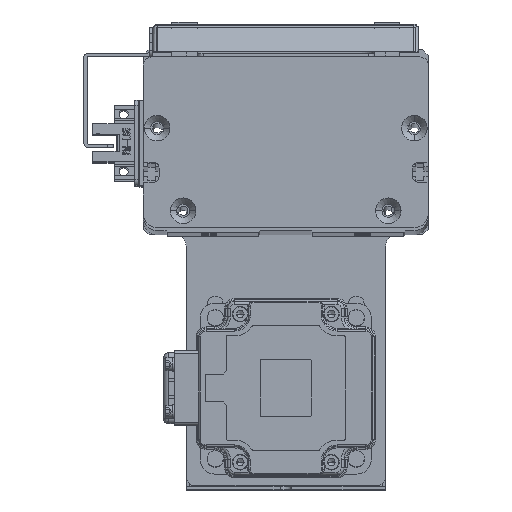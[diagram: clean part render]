
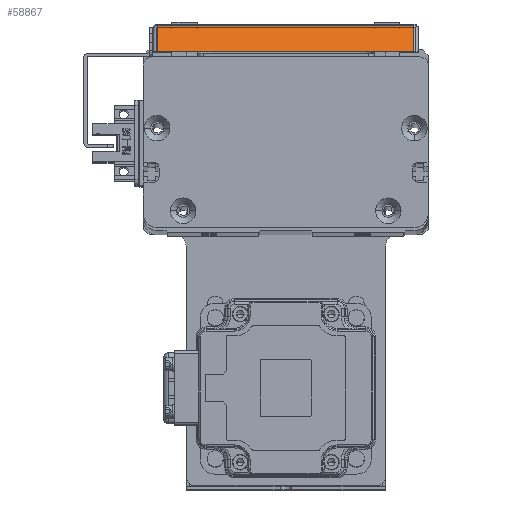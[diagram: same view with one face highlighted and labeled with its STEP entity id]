
A CAD part, top view. The second image highlights one B-rep face of the part: STEP entity #58867.
In plain terms, the highlighted planar face has unit normal (0, 0.707, 0.707) as drawn and (-0.707, 0, -0.707) by its records, which use the part's own axes.
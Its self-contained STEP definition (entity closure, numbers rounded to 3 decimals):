
#738 = FACE_OUTER_BOUND ( 'NONE', #35264, .T. ) ;
#4254 = ORIENTED_EDGE ( 'NONE', *, *, #16990, .T. ) ;
#6164 = VECTOR ( 'NONE', #11772, 1000. ) ;
#7328 = VERTEX_POINT ( 'NONE', #44306 ) ;
#8373 = EDGE_CURVE ( 'NONE', #7328, #28457, #16196, .T. ) ;
#10693 = CARTESIAN_POINT ( 'NONE',  ( -66.5, 91.7, 4.1 ) ) ;
#11015 = DIRECTION ( 'NONE',  ( -0.707, 0., 0.707 ) ) ;
#11119 = CARTESIAN_POINT ( 'NONE',  ( -66.5, 1.7, 4.1 ) ) ;
#11772 = DIRECTION ( 'NONE',  ( -0.707, 0., 0.707 ) ) ;
#12618 = EDGE_CURVE ( 'NONE', #38920, #7328, #15069, .T. ) ;
#12957 = LINE ( 'NONE', #43686, #6164 ) ;
#14979 = DIRECTION ( 'NONE',  ( 0., 1., 0. ) ) ;
#15069 = LINE ( 'NONE', #64853, #44924 ) ;
#15192 = ORIENTED_EDGE ( 'NONE', *, *, #12618, .T. ) ;
#16196 = LINE ( 'NONE', #22577, #37491 ) ;
#16990 = EDGE_CURVE ( 'NONE', #28457, #44024, #12957, .T. ) ;
#20171 = ORIENTED_EDGE ( 'NONE', *, *, #57896, .T. ) ;
#22577 = CARTESIAN_POINT ( 'NONE',  ( -57.298, 93.4, -5.102 ) ) ;
#28075 = LINE ( 'NONE', #30191, #45090 ) ;
#28457 = VERTEX_POINT ( 'NONE', #29002 ) ;
#29002 = CARTESIAN_POINT ( 'NONE',  ( -57.298, 1.7, -5.102 ) ) ;
#30191 = CARTESIAN_POINT ( 'NONE',  ( -66.5, 93.4, 4.1 ) ) ;
#33828 = DIRECTION ( 'NONE',  ( -0.707, 0., -0.707 ) ) ;
#35264 = EDGE_LOOP ( 'NONE', ( #4254, #20171, #15192, #40515 ) ) ;
#37491 = VECTOR ( 'NONE', #49629, 1000. ) ;
#38874 = CARTESIAN_POINT ( 'NONE',  ( -68., 93.4, 5.6 ) ) ;
#38920 = VERTEX_POINT ( 'NONE', #10693 ) ;
#39296 = DIRECTION ( 'NONE',  ( 0.707, 0., -0.707 ) ) ;
#40515 = ORIENTED_EDGE ( 'NONE', *, *, #8373, .T. ) ;
#43686 = CARTESIAN_POINT ( 'NONE',  ( -68., 1.7, 5.6 ) ) ;
#44024 = VERTEX_POINT ( 'NONE', #11119 ) ;
#44306 = CARTESIAN_POINT ( 'NONE',  ( -57.298, 91.7, -5.102 ) ) ;
#44924 = VECTOR ( 'NONE', #39296, 1000. ) ;
#45090 = VECTOR ( 'NONE', #14979, 1000. ) ;
#49522 = PLANE ( 'NONE',  #60916 ) ;
#49629 = DIRECTION ( 'NONE',  ( 0., -1., 0. ) ) ;
#57896 = EDGE_CURVE ( 'NONE', #44024, #38920, #28075, .T. ) ;
#58867 = ADVANCED_FACE ( 'NONE', ( #738 ), #49522, .T. ) ;
#60916 = AXIS2_PLACEMENT_3D ( 'NONE', #38874, #33828, #11015 ) ;
#64853 = CARTESIAN_POINT ( 'NONE',  ( -68., 91.7, 5.6 ) ) ;
